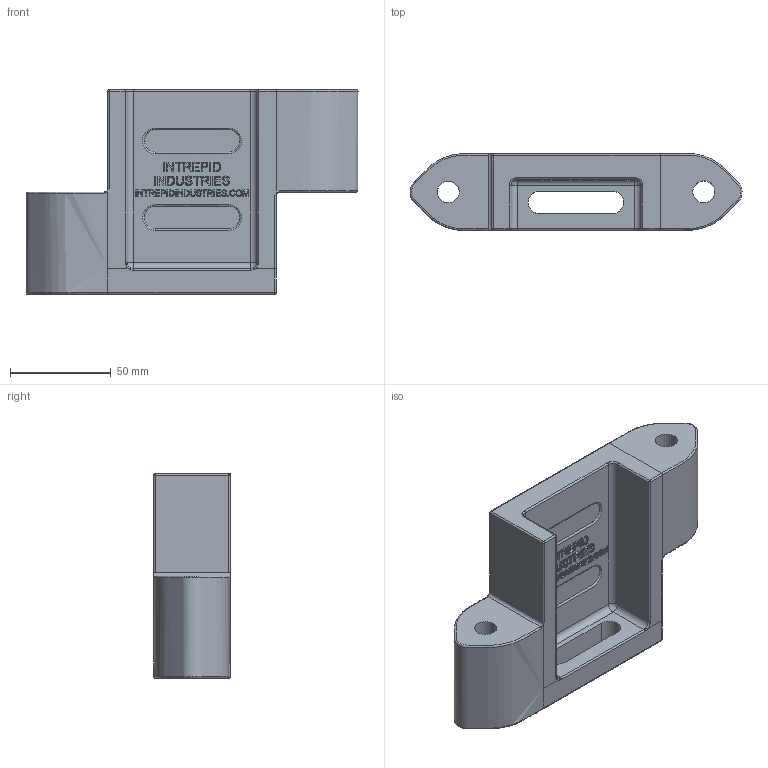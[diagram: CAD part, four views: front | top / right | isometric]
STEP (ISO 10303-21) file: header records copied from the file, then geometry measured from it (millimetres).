
FILE_DESCRIPTION(/* description */ (''),/* implementation_level */ '2;1');
FILE_NAME(/* name */ 'T5_2019',/* time_stamp */ '2023-02-06T09:57:50-06:00',/* author */ (''),/* organization */ (''),/* preprocessor_version */ 'ST-DEVELOPER v16.5',/* originating_system */ 'Rhino 7.26',/* authorisation */ '');
FILE_SCHEMA (('AUTOMOTIVE_DESIGN_CC2'));
Length unit declared in the file: inch
Products named in the file (1): Document
Bounding box: 165.1 x 38.1 x 101.6 mm (x, y, z)
Surface area: 50487.9 mm2 (no closed solid volume)
Topology: 0 solids, 1 shells, 421 faces, 1082 edges, 697 vertices
Faces by surface type: plane 312, bspline 79, cylinder 30
Entity records: 15634 total; most frequent: CARTESIAN_POINT 8316, ORIENTED_EDGE 2113, EDGE_CURVE 1082, B_SPLINE_CURVE_WITH_KNOTS 936, VERTEX_POINT 697, EDGE_LOOP 482, ADVANCED_FACE 421, FACE_OUTER_BOUND 421
